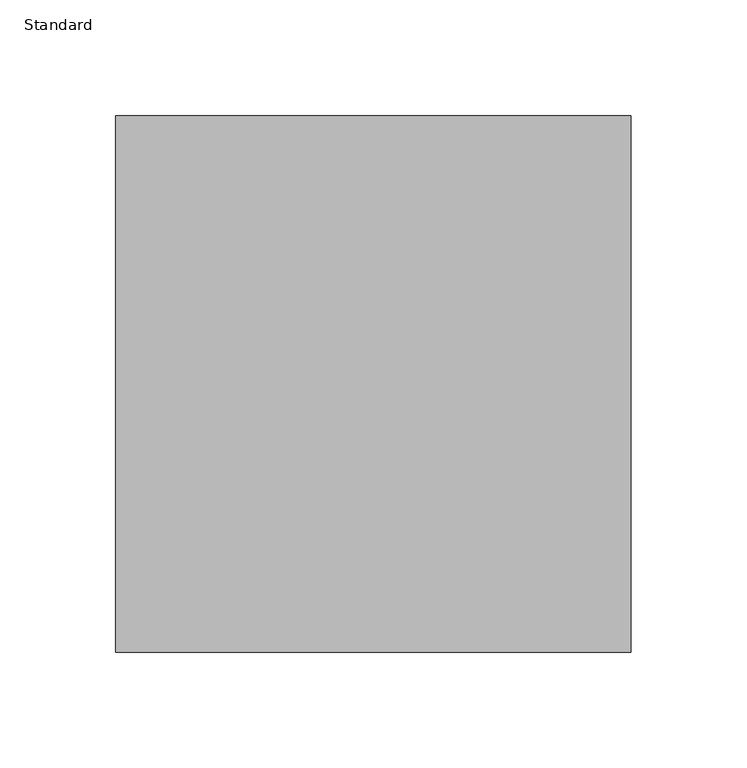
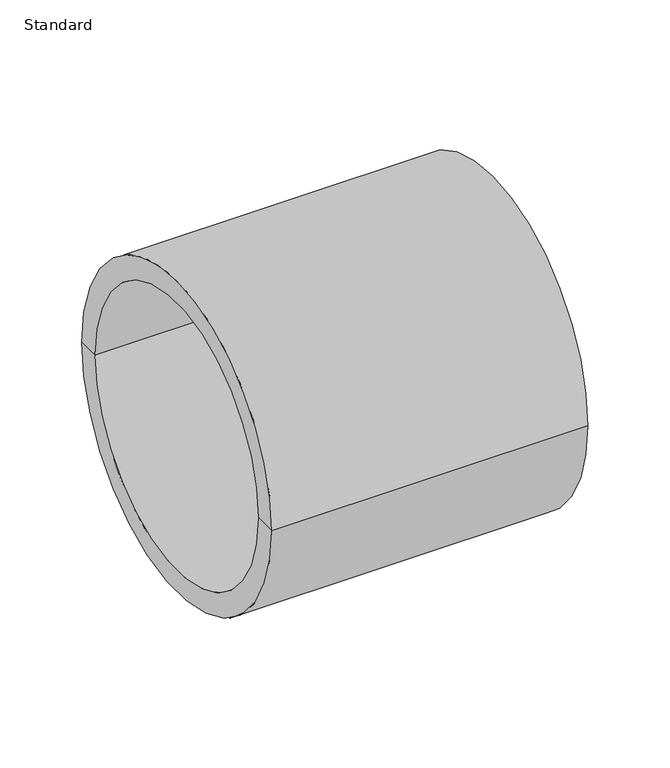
"""IFC4 building model written with IfcOpenShell, lengths in millimetres: pipe fitting geometry, Durapipe_PipeFitting_PVC_Socket : Standard."""

from ifc_helpers import new_model, si_unit, frame, origin, place, context, project, spatial, polyline, circle_curve, source, transform, mapped, element, save
from ifc_brep_helpers import plane_surface, cylinder_surface, revolved_surface, advanced_brep


def standard_16ee4b1b(model_context):
    return source(origin(), model_context, "Body", "AdvancedBrep", [
        advanced_brep(
        [(-111.5, -116.0, 0.0), (-111.5, 116.0, 0.0), (111.5, 116.0, 0.0), (111.5, -116.0, 0.0), (-111.5, -100.0, 0.0), (-111.5, 100.0, 0.0), (5.5, -89.0, 0.0), (5.5, 89.0, 0.0), (-5.5, 89.0, 0.0), (-5.5, -89.0, 0.0), (111.5, 100.0, 0.0), (111.5, -100.0, 0.0), (-5.5, -100.0, 0.0), (-5.5, 100.0, 0.0), (5.5, -100.0, 0.0), (5.5, 100.0, 0.0)],
        [
            (0, 1, circle_curve(frame((-111.5, 0.0, 0.0), z_axis=(1.0, 0.0, 0.0), x_axis=(0.0, 1.0, 0.0)), 116.0)),
            (1, 2),
            (2, 3, circle_curve(frame((111.5, 0.0, 0.0), z_axis=(-1.0, 0.0, 0.0), x_axis=(0.0, 1.0, 0.0)), 116.0)),
            (3, 0),
            (1, 0, circle_curve(frame((-111.5, 0.0, 0.0), z_axis=(1.0, 0.0, 0.0), x_axis=(0.0, 1.0, 0.0)), 116.0)),
            (3, 2, circle_curve(frame((111.5, 0.0, 0.0), z_axis=(-1.0, 0.0, 0.0), x_axis=(0.0, 1.0, 0.0)), 116.0)),
            (4, 5, circle_curve(frame((-111.5, 0.0, 0.0), z_axis=(1.0, 0.0, 0.0), x_axis=(0.0, 1.0, 0.0)), 100.0)),
            (5, 1),
            (0, 4),
            (5, 4, circle_curve(frame((-111.5, 0.0, 0.0), z_axis=(1.0, 0.0, 0.0), x_axis=(0.0, 1.0, 0.0)), 100.0)),
            (6, 7, circle_curve(frame((5.5, 0.0, 0.0), z_axis=(1.0, 0.0, 0.0), x_axis=(0.0, 1.0, 0.0)), 89.0)),
            (7, 8),
            (8, 9, circle_curve(frame((-5.5, 0.0, 0.0), z_axis=(-1.0, 0.0, 0.0), x_axis=(0.0, 1.0, 0.0)), 89.0)),
            (9, 6),
            (7, 6, circle_curve(frame((5.5, 0.0, 0.0), z_axis=(1.0, 0.0, 0.0), x_axis=(0.0, 1.0, 0.0)), 89.0)),
            (9, 8, circle_curve(frame((-5.5, 0.0, 0.0), z_axis=(-1.0, 0.0, 0.0), x_axis=(0.0, 1.0, 0.0)), 89.0)),
            (2, 10),
            (10, 11, circle_curve(frame((111.5, 0.0, 0.0), z_axis=(-1.0, 0.0, 0.0), x_axis=(0.0, 1.0, 0.0)), 100.0)),
            (11, 3),
            (11, 10, circle_curve(frame((111.5, 0.0, 0.0), z_axis=(-1.0, 0.0, 0.0), x_axis=(0.0, 1.0, 0.0)), 100.0)),
            (12, 13, circle_curve(frame((-5.5, 0.0, 0.0), z_axis=(1.0, 0.0, 0.0), x_axis=(0.0, 1.0, 0.0)), 100.0)),
            (13, 5),
            (4, 12),
            (13, 12, circle_curve(frame((-5.5, 0.0, 0.0), z_axis=(1.0, 0.0, 0.0), x_axis=(0.0, 1.0, 0.0)), 100.0)),
            (8, 13),
            (12, 9),
            (14, 15, circle_curve(frame((5.5, 0.0, 0.0), z_axis=(1.0, 0.0, 0.0), x_axis=(0.0, 1.0, 0.0)), 100.0)),
            (15, 7),
            (6, 14),
            (15, 14, circle_curve(frame((5.5, 0.0, 0.0), z_axis=(1.0, 0.0, 0.0), x_axis=(0.0, 1.0, 0.0)), 100.0)),
            (10, 15),
            (14, 11),
        ],
        [
            cylinder_surface(frame((-111.5, 0.0, 0.0), z_axis=(-1.0, 0.0, 0.0), x_axis=(0.0, 1.0, 0.0)), 116.0),
            plane_surface(frame((-111.5, 0.0, 0.0), z_axis=(-1.0, 0.0, 0.0), x_axis=(0.0, 1.0, 0.0))),
            revolved_surface(polyline([(-5.5, 89.0, 0.0), (5.5, 89.0, 0.0)]), (-111.5, 0.0, 0.0), (-1.0, 0.0, 0.0)),
            plane_surface(frame((111.5, 0.0, 0.0), z_axis=(1.0, 0.0, 0.0), x_axis=(0.0, 1.0, 0.0))),
            revolved_surface(polyline([(-111.5, 100.0, 0.0), (-5.5, 100.0, 0.0)]), (-111.5, 0.0, 0.0), (-1.0, 0.0, 0.0)),
            plane_surface(frame((-5.5, 0.0, 0.0), z_axis=(-1.0, 0.0, 0.0), x_axis=(0.0, 1.0, 0.0))),
            plane_surface(frame((5.5, 0.0, 0.0), z_axis=(1.0, 0.0, 0.0), x_axis=(0.0, 1.0, 0.0))),
            revolved_surface(polyline([(5.5, 100.0, 0.0), (111.5, 100.0, 0.0)]), (-111.5, 0.0, 0.0), (-1.0, 0.0, 0.0)),
        ],
        [
            (0, [[1, 2, 3, 4]]),
            (0, [[5, -4, 6, -2]]),
            (1, [[7, 8, -1, 9]]),
            (1, [[10, -9, -5, -8]]),
            (2, [[11, 12, 13, 14]]),
            (2, [[15, -14, 16, -12]]),
            (3, [[-3, 17, 18, 19]]),
            (3, [[-6, -19, 20, -17]]),
            (4, [[21, 22, -7, 23]]),
            (4, [[24, -23, -10, -22]]),
            (5, [[-13, 25, -21, 26]]),
            (5, [[-16, -26, -24, -25]]),
            (6, [[27, 28, -11, 29]]),
            (6, [[30, -29, -15, -28]]),
            (7, [[-18, 31, -27, 32]]),
            (7, [[-20, -32, -30, -31]]),
        ],
    ),
    ])


if __name__ == "__main__":
    model = new_model("IFC4")
    model_context = context("Model", 3, world=origin())
    ifc_project = project(units=[si_unit("LENGTHUNIT", "METRE", prefix="MILLI")], contexts=[model_context])
    site = spatial("IfcSite", under=ifc_project)
    building = spatial("IfcBuilding", under=site)
    placement = place(None, origin())
    standard_shape = standard_16ee4b1b(model_context)
    element("IfcPipeFitting", 1, ObjectType="Durapipe_PipeFitting_PVC_Socket : Standard", at=placement, inside=building, context=model_context, shape_type="MappedRepresentation", body=[
        mapped(standard_shape, transform((0.0, 0.0, 0.0), x_axis=(1.0, 0.0, 0.0), y_axis=(0.0, 1.0, 0.0), z_axis=(0.0, 0.0, 1.0))),
    ])
    save(model, "model.ifc")
